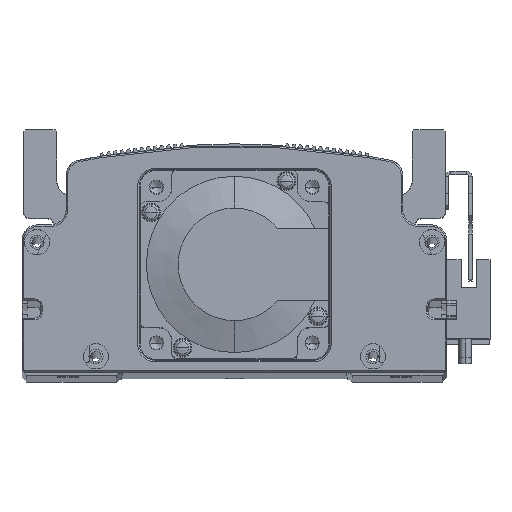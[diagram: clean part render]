
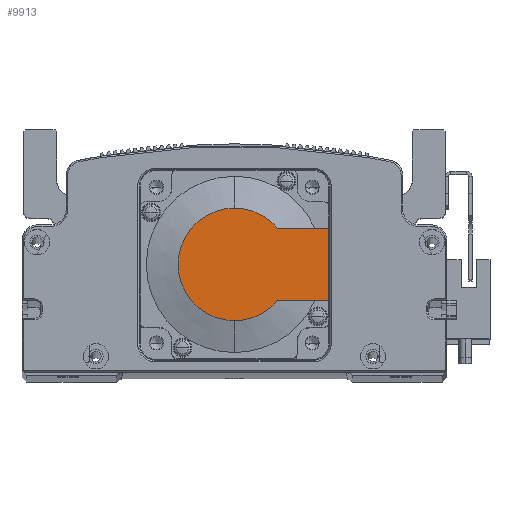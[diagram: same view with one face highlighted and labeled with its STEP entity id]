
A CAD part, top view. The second image highlights one B-rep face of the part: STEP entity #9913.
In plain terms, the highlighted planar face has unit normal (0, 0, 1) as drawn and (-1, 0, 0) by its records, which use the part's own axes.
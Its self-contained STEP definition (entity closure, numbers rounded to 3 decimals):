
#1554 = VERTEX_POINT ( 'NONE', #18355 ) ;
#3196 = LINE ( 'NONE', #43917, #70118 ) ;
#3419 = DIRECTION ( 'NONE',  ( 0., -1., 0. ) ) ;
#4766 = AXIS2_PLACEMENT_3D ( 'NONE', #29282, #7983, #29527 ) ;
#4853 = EDGE_LOOP ( 'NONE', ( #52072, #58237, #29859, #61207, #30060, #19041 ) ) ;
#7983 = DIRECTION ( 'NONE',  ( -1., 0., 0. ) ) ;
#9328 = CARTESIAN_POINT ( 'NONE',  ( -118.5, 0., 11.45 ) ) ;
#9913 = ADVANCED_FACE ( 'NONE', ( #35218 ), #32301, .T. ) ;
#15047 = DIRECTION ( 'NONE',  ( 0., 0., 1. ) ) ;
#15450 = CARTESIAN_POINT ( 'NONE',  ( -118.5, 30., 25. ) ) ;
#15983 = DIRECTION ( 'NONE',  ( 0., 0., -1. ) ) ;
#18304 = LINE ( 'NONE', #15450, #30196 ) ;
#18355 = CARTESIAN_POINT ( 'NONE',  ( -118.5, 13.735, 11.45 ) ) ;
#19041 = ORIENTED_EDGE ( 'NONE', *, *, #31817, .F. ) ;
#20115 = VERTEX_POINT ( 'NONE', #48613 ) ;
#21286 = DIRECTION ( 'NONE',  ( 0., 0., -1. ) ) ;
#25655 = EDGE_CURVE ( 'NONE', #54465, #28423, #3196, .T. ) ;
#26416 = CARTESIAN_POINT ( 'NONE',  ( -118.5, 0., 0. ) ) ;
#27957 = AXIS2_PLACEMENT_3D ( 'NONE', #47484, #31815, #15047 ) ;
#28423 = VERTEX_POINT ( 'NONE', #49152 ) ;
#29282 = CARTESIAN_POINT ( 'NONE',  ( -118.5, 0., 0. ) ) ;
#29527 = DIRECTION ( 'NONE',  ( 0., 0., -1. ) ) ;
#29859 = ORIENTED_EDGE ( 'NONE', *, *, #34090, .T. ) ;
#30060 = ORIENTED_EDGE ( 'NONE', *, *, #39655, .F. ) ;
#30196 = VECTOR ( 'NONE', #31755, 1000. ) ;
#30925 = CIRCLE ( 'NONE', #4766, 17.881 ) ;
#31755 = DIRECTION ( 'NONE',  ( 0., 0., 1. ) ) ;
#31815 = DIRECTION ( 'NONE',  ( -1., 0., 0. ) ) ;
#31817 = EDGE_CURVE ( 'NONE', #54465, #56324, #18304, .T. ) ;
#32301 = PLANE ( 'NONE',  #27957 ) ;
#34090 = EDGE_CURVE ( 'NONE', #42200, #20115, #34606, .T. ) ;
#34542 = CARTESIAN_POINT ( 'NONE',  ( -118.5, 0., -17.881 ) ) ;
#34588 = LINE ( 'NONE', #9328, #43869 ) ;
#34606 = CIRCLE ( 'NONE', #39123, 17.881 ) ;
#35218 = FACE_OUTER_BOUND ( 'NONE', #4853, .T. ) ;
#39123 = AXIS2_PLACEMENT_3D ( 'NONE', #53264, #69138, #21286 ) ;
#39655 = EDGE_CURVE ( 'NONE', #56324, #1554, #34588, .T. ) ;
#42200 = VERTEX_POINT ( 'NONE', #34542 ) ;
#43869 = VECTOR ( 'NONE', #3419, 1000. ) ;
#43917 = CARTESIAN_POINT ( 'NONE',  ( -118.5, -8.941, -11.45 ) ) ;
#47484 = CARTESIAN_POINT ( 'NONE',  ( -118.5, -8.941, 0. ) ) ;
#48178 = DIRECTION ( 'NONE',  ( -1., 0., 0. ) ) ;
#48613 = CARTESIAN_POINT ( 'NONE',  ( -118.5, 0., 17.881 ) ) ;
#49152 = CARTESIAN_POINT ( 'NONE',  ( -118.5, 13.735, -11.45 ) ) ;
#49354 = CARTESIAN_POINT ( 'NONE',  ( -118.5, 30., 11.45 ) ) ;
#52072 = ORIENTED_EDGE ( 'NONE', *, *, #25655, .T. ) ;
#53222 = CARTESIAN_POINT ( 'NONE',  ( -118.5, 30., -11.45 ) ) ;
#53264 = CARTESIAN_POINT ( 'NONE',  ( -118.5, 0., 0. ) ) ;
#54465 = VERTEX_POINT ( 'NONE', #53222 ) ;
#55798 = DIRECTION ( 'NONE',  ( 0., -1., 0. ) ) ;
#56324 = VERTEX_POINT ( 'NONE', #49354 ) ;
#57374 = EDGE_CURVE ( 'NONE', #20115, #1554, #63573, .T. ) ;
#58237 = ORIENTED_EDGE ( 'NONE', *, *, #59245, .T. ) ;
#59245 = EDGE_CURVE ( 'NONE', #28423, #42200, #30925, .T. ) ;
#61207 = ORIENTED_EDGE ( 'NONE', *, *, #57374, .T. ) ;
#63573 = CIRCLE ( 'NONE', #66392, 17.881 ) ;
#66392 = AXIS2_PLACEMENT_3D ( 'NONE', #26416, #48178, #15983 ) ;
#69138 = DIRECTION ( 'NONE',  ( -1., 0., 0. ) ) ;
#70118 = VECTOR ( 'NONE', #55798, 1000. ) ;
